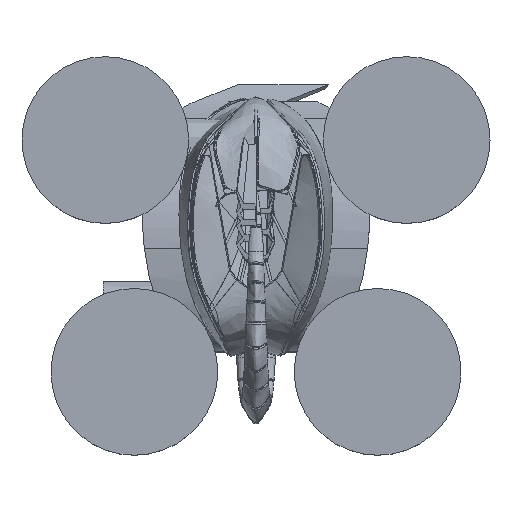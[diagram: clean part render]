
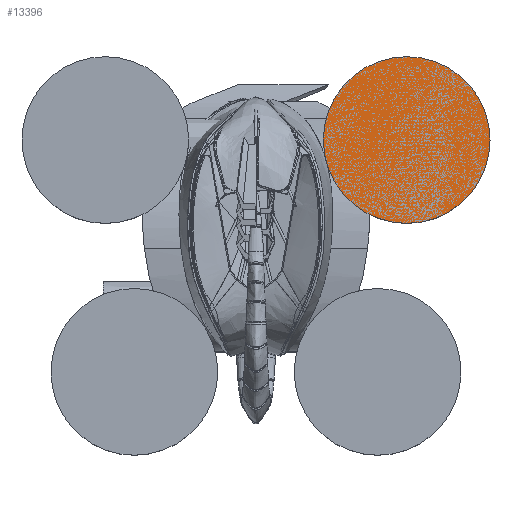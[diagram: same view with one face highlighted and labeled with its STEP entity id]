
A CAD part, top view. The second image highlights one B-rep face of the part: STEP entity #13396.
In plain terms, the highlighted planar face has unit normal (0, 0, 1).
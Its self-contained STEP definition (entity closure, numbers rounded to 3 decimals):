
#11143=CIRCLE('',#65857,65.);
#13396=ADVANCED_FACE('',(#17904),#17331,.T.);
#17331=PLANE('',#65860);
#17904=FACE_OUTER_BOUND('',#21777,.T.);
#21777=EDGE_LOOP('',(#26303));
#26303=ORIENTED_EDGE('',*,*,#53041,.T.);
#46575=VERTEX_POINT('',#79957);
#53041=EDGE_CURVE('',#46575,#46575,#11143,.T.);
#65857=AXIS2_PLACEMENT_3D('',#79956,#70291,#70292);
#65860=AXIS2_PLACEMENT_3D('',#79960,#70297,#70298);
#70291=DIRECTION('',(0.,0.,1.));
#70292=DIRECTION('',(1.,0.,0.));
#70297=DIRECTION('',(0.,0.,1.));
#70298=DIRECTION('',(1.,0.,0.));
#79956=CARTESIAN_POINT('',(117.475,84.362,53.));
#79957=CARTESIAN_POINT('',(182.475,84.362,53.));
#79960=CARTESIAN_POINT('',(117.475,84.362,53.));
